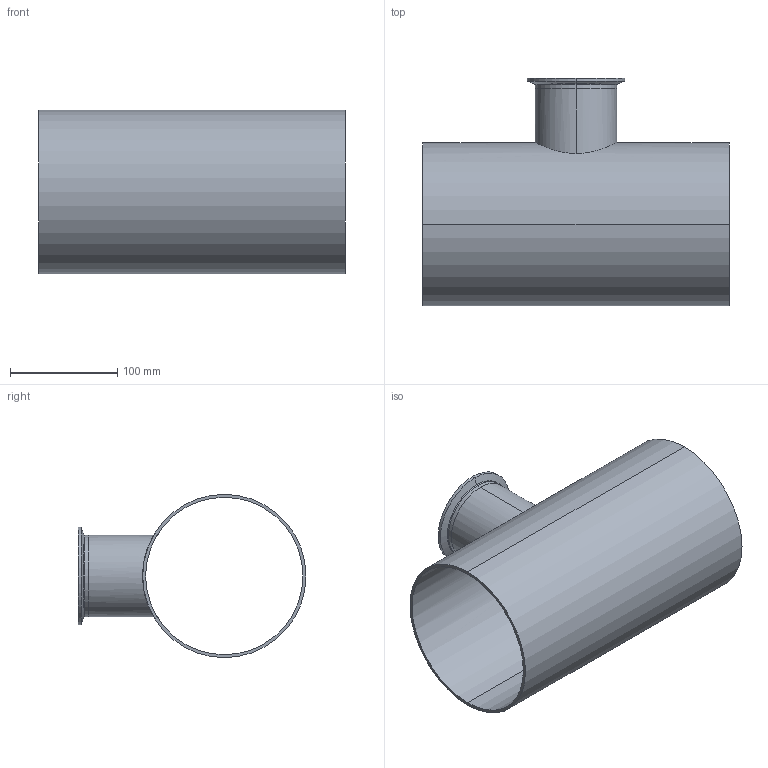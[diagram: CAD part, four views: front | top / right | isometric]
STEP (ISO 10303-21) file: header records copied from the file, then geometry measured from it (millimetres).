
FILE_DESCRIPTION (( 'STEP AP214' ), '1' );
FILE_NAME ('TE7RWWC6L6.0x3.0-...STEP', '2016-05-23T09:38:41', ( 'eran' ), ( '' ), 'SwSTEP 2.0', 'SolidWorks 2016', '' );
FILE_SCHEMA (( 'AUTOMOTIVE_DESIGN' ));
Length unit declared in the file: millimetre
Products named in the file (1): TE7RWWC6L6.0x3.0-..
Bounding box: 285.8 x 212.7 x 152.4 mm (x, y, z)
Volume: 393016.8 mm3; surface area: 298125.3 mm2
Topology: 2 solids, 2 shells, 36 faces, 88 edges, 58 vertices
Faces by surface type: cylinder 14, bspline 10, plane 6, cone 6
Entity records: 2102 total; most frequent: CARTESIAN_POINT 1197, DIRECTION 190, ORIENTED_EDGE 176, EDGE_CURVE 88, AXIS2_PLACEMENT_3D 85, CIRCLE 58, VERTEX_POINT 58, EDGE_LOOP 44
